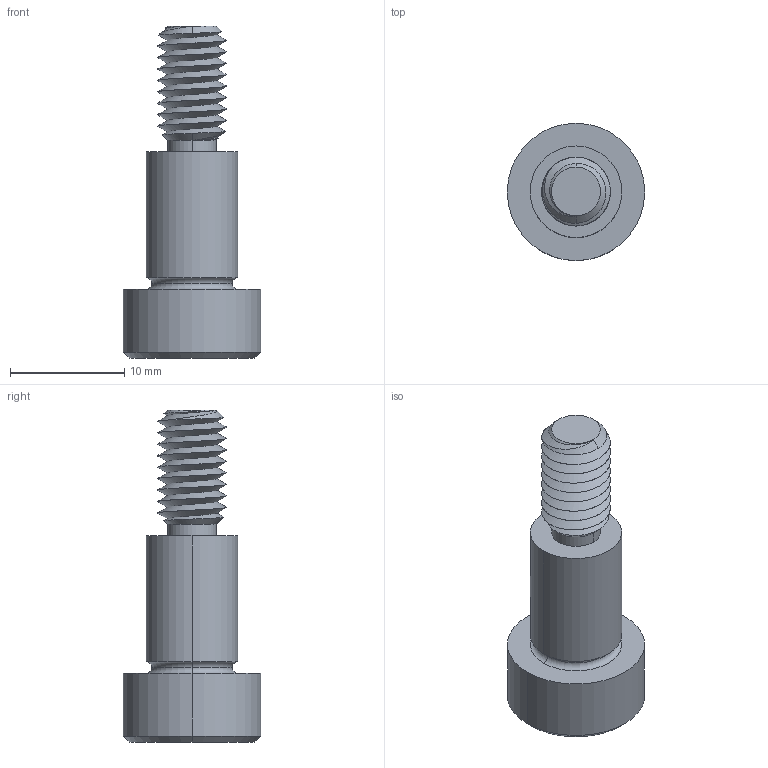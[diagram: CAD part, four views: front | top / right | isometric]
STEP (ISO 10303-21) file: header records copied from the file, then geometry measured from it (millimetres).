
FILE_DESCRIPTION (( 'STEP AP203' ), '1' );
FILE_NAME ('P0130.080-012-B2.step', '2021-11-09T21:36:12', ( '' ), ( '' ), 'SwSTEP 2.0', 'SolidWorks 2019', '' );
FILE_SCHEMA (( 'CONFIG_CONTROL_DESIGN' ));
Length unit declared in the file: millimetre
Products named in the file (1): P0130.080-012-B2
Bounding box: 12 x 12 x 29 mm (x, y, z)
Volume: 1429.2 mm3; surface area: 1134.4 mm2
Topology: 1 solids, 1 shells, 60 faces, 142 edges, 85 vertices
Faces by surface type: cylinder 24, plane 16, cone 14, torus 4, bspline 2
Entity records: 4245 total; most frequent: CARTESIAN_POINT 2899, ORIENTED_EDGE 280, DIRECTION 247, EDGE_CURVE 140, AXIS2_PLACEMENT_3D 99, VERTEX_POINT 85, EDGE_LOOP 63, FACE_OUTER_BOUND 60
